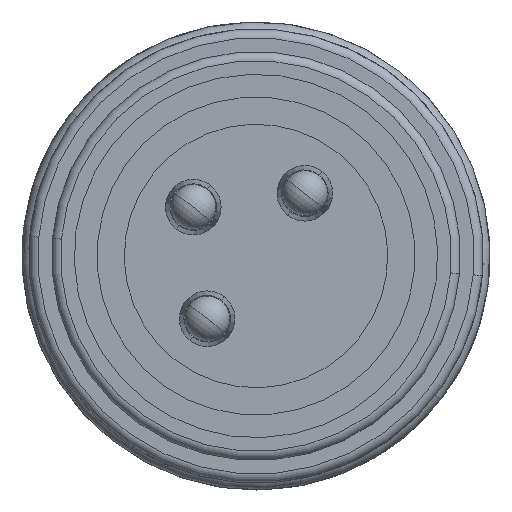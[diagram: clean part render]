
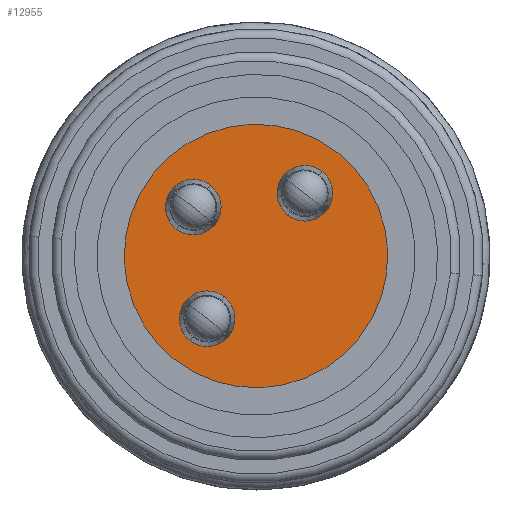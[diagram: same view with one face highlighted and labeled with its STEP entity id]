
A CAD part, front view. The second image highlights one B-rep face of the part: STEP entity #12955.
In plain terms, the highlighted planar face has unit normal (0, -1, 0).
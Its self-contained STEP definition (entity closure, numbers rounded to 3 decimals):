
#306 = DIRECTION ( 'NONE',  ( 0.614, 0., 0.789 ) ) ;
#498 = DIRECTION ( 'NONE',  ( 0.789, 0., -0.614 ) ) ;
#1475 = EDGE_CURVE ( 'NONE', #14424, #10569, #15660, .T. ) ;
#1726 = CIRCLE ( 'NONE', #23642, 0.613 ) ;
#1886 = VERTEX_POINT ( 'NONE', #4325 ) ;
#1986 = FACE_BOUND ( 'NONE', #15129, .T. ) ;
#2067 = VERTEX_POINT ( 'NONE', #8300 ) ;
#2097 = CARTESIAN_POINT ( 'NONE',  ( -11.557, -89.455, -0.017 ) ) ;
#2743 = EDGE_CURVE ( 'NONE', #10569, #14424, #15578, .T. ) ;
#2818 = EDGE_CURVE ( 'NONE', #11289, #2838, #21737, .T. ) ;
#2838 = VERTEX_POINT ( 'NONE', #19078 ) ;
#3299 = CIRCLE ( 'NONE', #19468, 2.9 ) ;
#3519 = EDGE_CURVE ( 'NONE', #2067, #6379, #3299, .T. ) ;
#4058 = DIRECTION ( 'NONE',  ( 0., -1., 0. ) ) ;
#4325 = CARTESIAN_POINT ( 'NONE',  ( -10.858, -89.455, 0.88 ) ) ;
#4530 = EDGE_LOOP ( 'NONE', ( #18161, #7845 ) ) ;
#5518 = CARTESIAN_POINT ( 'NONE',  ( -12.562, -89.455, 1.541 ) ) ;
#6263 = DIRECTION ( 'NONE',  ( 0., 1., 0. ) ) ;
#6379 = VERTEX_POINT ( 'NONE', #14605 ) ;
#7563 = FACE_OUTER_BOUND ( 'NONE', #4530, .T. ) ;
#7838 = CIRCLE ( 'NONE', #13175, 0.613 ) ;
#7845 = ORIENTED_EDGE ( 'NONE', *, *, #3519, .F. ) ;
#8300 = CARTESIAN_POINT ( 'NONE',  ( -13.338, -89.455, -2.306 ) ) ;
#9505 = CARTESIAN_POINT ( 'NONE',  ( -10.482, -89.455, 1.364 ) ) ;
#10072 = CARTESIAN_POINT ( 'NONE',  ( -13.008, -89.455, -1.881 ) ) ;
#10342 = VERTEX_POINT ( 'NONE', #15486 ) ;
#10569 = VERTEX_POINT ( 'NONE', #10072 ) ;
#10590 = CARTESIAN_POINT ( 'NONE',  ( -11.557, -89.455, -0.017 ) ) ;
#10623 = AXIS2_PLACEMENT_3D ( 'NONE', #12925, #17011, #498 ) ;
#10821 = DIRECTION ( 'NONE',  ( 0.789, 0., -0.614 ) ) ;
#11162 = FACE_BOUND ( 'NONE', #19978, .T. ) ;
#11289 = VERTEX_POINT ( 'NONE', #5518 ) ;
#11359 = AXIS2_PLACEMENT_3D ( 'NONE', #11737, #18960, #22548 ) ;
#11627 = ORIENTED_EDGE ( 'NONE', *, *, #15231, .T. ) ;
#11677 = CARTESIAN_POINT ( 'NONE',  ( -10.482, -89.455, 1.364 ) ) ;
#11713 = CARTESIAN_POINT ( 'NONE',  ( -12.938, -89.455, 1.058 ) ) ;
#11737 = CARTESIAN_POINT ( 'NONE',  ( -12.938, -89.455, 1.058 ) ) ;
#12578 = AXIS2_PLACEMENT_3D ( 'NONE', #2097, #4058, #15232 ) ;
#12925 = CARTESIAN_POINT ( 'NONE',  ( -11.557, -89.455, -0.017 ) ) ;
#12955 = ADVANCED_FACE ( 'NONE', ( #11162, #18503, #1986, #7563 ), #21631, .T. ) ;
#13175 = AXIS2_PLACEMENT_3D ( 'NONE', #9505, #16950, #306 ) ;
#13371 = DIRECTION ( 'NONE',  ( 0., 1., 0. ) ) ;
#14175 = DIRECTION ( 'NONE',  ( 0., 1., 0. ) ) ;
#14201 = CARTESIAN_POINT ( 'NONE',  ( -12.256, -89.455, -0.915 ) ) ;
#14424 = VERTEX_POINT ( 'NONE', #14201 ) ;
#14516 = ORIENTED_EDGE ( 'NONE', *, *, #2743, .T. ) ;
#14605 = CARTESIAN_POINT ( 'NONE',  ( -9.776, -89.455, 2.271 ) ) ;
#14967 = CARTESIAN_POINT ( 'NONE',  ( -12.632, -89.455, -1.398 ) ) ;
#15030 = ORIENTED_EDGE ( 'NONE', *, *, #1475, .T. ) ;
#15129 = EDGE_LOOP ( 'NONE', ( #11627, #18942 ) ) ;
#15231 = EDGE_CURVE ( 'NONE', #2838, #11289, #1726, .T. ) ;
#15232 = DIRECTION ( 'NONE',  ( 0.789, 0., -0.614 ) ) ;
#15260 = DIRECTION ( 'NONE',  ( 0.614, 0., 0.789 ) ) ;
#15486 = CARTESIAN_POINT ( 'NONE',  ( -10.106, -89.455, 1.847 ) ) ;
#15578 = CIRCLE ( 'NONE', #21366, 0.613 ) ;
#15660 = CIRCLE ( 'NONE', #21443, 0.613 ) ;
#16020 = CARTESIAN_POINT ( 'NONE',  ( -12.632, -89.455, -1.398 ) ) ;
#16097 = DIRECTION ( 'NONE',  ( 0.614, 0., 0.789 ) ) ;
#16950 = DIRECTION ( 'NONE',  ( 0., 1., 0. ) ) ;
#17011 = DIRECTION ( 'NONE',  ( 0., 1., 0. ) ) ;
#17735 = EDGE_CURVE ( 'NONE', #1886, #10342, #23570, .T. ) ;
#17755 = EDGE_CURVE ( 'NONE', #10342, #1886, #7838, .T. ) ;
#17827 = DIRECTION ( 'NONE',  ( 0.614, 0., 0.789 ) ) ;
#18161 = ORIENTED_EDGE ( 'NONE', *, *, #20577, .F. ) ;
#18204 = AXIS2_PLACEMENT_3D ( 'NONE', #11677, #6263, #15260 ) ;
#18278 = DIRECTION ( 'NONE',  ( 0., 1., 0. ) ) ;
#18503 = FACE_BOUND ( 'NONE', #22357, .T. ) ;
#18942 = ORIENTED_EDGE ( 'NONE', *, *, #2818, .T. ) ;
#18960 = DIRECTION ( 'NONE',  ( 0., 1., 0. ) ) ;
#19054 = DIRECTION ( 'NONE',  ( 0.614, 0., 0.789 ) ) ;
#19078 = CARTESIAN_POINT ( 'NONE',  ( -13.314, -89.455, 0.574 ) ) ;
#19468 = AXIS2_PLACEMENT_3D ( 'NONE', #10590, #18278, #10821 ) ;
#19978 = EDGE_LOOP ( 'NONE', ( #23151, #19986 ) ) ;
#19986 = ORIENTED_EDGE ( 'NONE', *, *, #17755, .T. ) ;
#20577 = EDGE_CURVE ( 'NONE', #6379, #2067, #23650, .T. ) ;
#20882 = DIRECTION ( 'NONE',  ( 0., 1., 0. ) ) ;
#21366 = AXIS2_PLACEMENT_3D ( 'NONE', #14967, #14175, #16097 ) ;
#21443 = AXIS2_PLACEMENT_3D ( 'NONE', #16020, #20882, #17827 ) ;
#21631 = PLANE ( 'NONE',  #12578 ) ;
#21737 = CIRCLE ( 'NONE', #11359, 0.613 ) ;
#22357 = EDGE_LOOP ( 'NONE', ( #14516, #15030 ) ) ;
#22548 = DIRECTION ( 'NONE',  ( 0.614, 0., 0.789 ) ) ;
#23151 = ORIENTED_EDGE ( 'NONE', *, *, #17735, .T. ) ;
#23570 = CIRCLE ( 'NONE', #18204, 0.613 ) ;
#23642 = AXIS2_PLACEMENT_3D ( 'NONE', #11713, #13371, #19054 ) ;
#23650 = CIRCLE ( 'NONE', #10623, 2.9 ) ;
